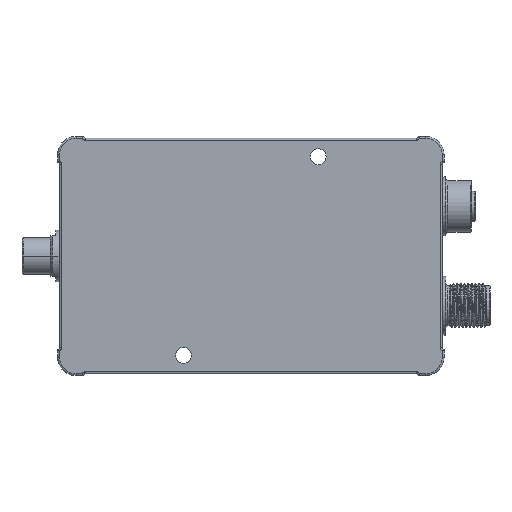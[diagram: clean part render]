
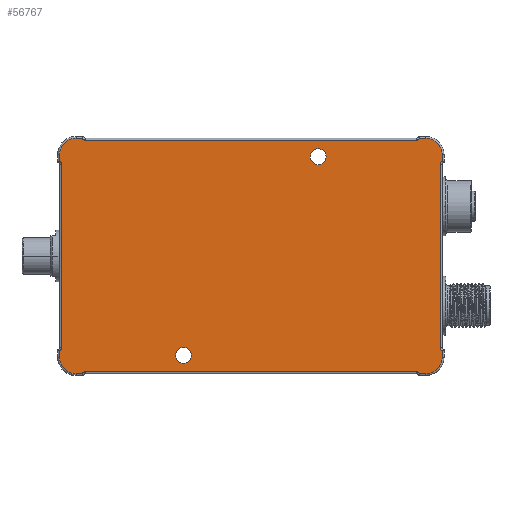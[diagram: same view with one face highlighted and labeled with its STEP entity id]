
A CAD part, front view. The second image highlights one B-rep face of the part: STEP entity #56767.
In plain terms, the highlighted planar face has unit normal (0, -1, 0).
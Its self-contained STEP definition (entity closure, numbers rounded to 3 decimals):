
#60=DIRECTION('',(0.,0.,1.));
#61=VECTOR('',#60,1.634);
#62=CARTESIAN_POINT('',(52.,0.,25.866));
#63=LINE('',#62,#61);
#68=CARTESIAN_POINT('',(52.5,0.,25.));
#69=DIRECTION('',(0.,-1.,0.));
#70=DIRECTION('',(-0.5,0.,0.866));
#71=AXIS2_PLACEMENT_3D('',#68,#69,#70);
#76=DIRECTION('',(0.,0.,-1.));
#77=VECTOR('',#76,50.);
#78=CARTESIAN_POINT('',(51.5,0.,25.));
#79=LINE('',#78,#77);
#83=CARTESIAN_POINT('',(52.5,0.,-25.));
#84=DIRECTION('',(0.,-1.,0.));
#85=DIRECTION('',(-1.,0.,0.));
#86=AXIS2_PLACEMENT_3D('',#83,#84,#85);
#91=DIRECTION('',(0.,0.,1.));
#92=VECTOR('',#91,1.634);
#93=CARTESIAN_POINT('',(52.,0.,-27.5));
#94=LINE('',#93,#92);
#98=CARTESIAN_POINT('',(47.5,0.,-27.5));
#99=DIRECTION('',(0.,-1.,0.));
#100=DIRECTION('',(0.,0.,-1.));
#101=AXIS2_PLACEMENT_3D('',#98,#99,#100);
#106=DIRECTION('',(1.,0.,0.));
#107=VECTOR('',#106,1.634);
#108=CARTESIAN_POINT('',(45.866,0.,-32.));
#109=LINE('',#108,#107);
#113=CARTESIAN_POINT('',(45.,0.,-32.5));
#114=DIRECTION('',(0.,-1.,0.));
#115=DIRECTION('',(0.866,0.,0.5));
#116=AXIS2_PLACEMENT_3D('',#113,#114,#115);
#121=DIRECTION('',(-1.,0.,0.));
#122=VECTOR('',#121,90.);
#123=CARTESIAN_POINT('',(45.,0.,-31.5));
#124=LINE('',#123,#122);
#128=CARTESIAN_POINT('',(-45.,0.,-32.5));
#129=DIRECTION('',(0.,-1.,0.));
#130=DIRECTION('',(0.,0.,1.));
#131=AXIS2_PLACEMENT_3D('',#128,#129,#130);
#136=DIRECTION('',(1.,0.,0.));
#137=VECTOR('',#136,1.634);
#138=CARTESIAN_POINT('',(-47.5,0.,-32.));
#139=LINE('',#138,#137);
#143=CARTESIAN_POINT('',(-47.5,0.,-27.5));
#144=DIRECTION('',(0.,-1.,0.));
#145=DIRECTION('',(-1.,0.,0.));
#146=AXIS2_PLACEMENT_3D('',#143,#144,#145);
#151=DIRECTION('',(0.,0.,-1.));
#152=VECTOR('',#151,1.634);
#153=CARTESIAN_POINT('',(-52.,0.,-25.866));
#154=LINE('',#153,#152);
#158=CARTESIAN_POINT('',(-52.5,0.,-25.));
#159=DIRECTION('',(0.,-1.,0.));
#160=DIRECTION('',(0.5,0.,-0.866));
#161=AXIS2_PLACEMENT_3D('',#158,#159,#160);
#166=DIRECTION('',(0.,0.,1.));
#167=VECTOR('',#166,50.);
#168=CARTESIAN_POINT('',(-51.5,0.,-25.));
#169=LINE('',#168,#167);
#173=CARTESIAN_POINT('',(-52.5,0.,25.));
#174=DIRECTION('',(0.,-1.,0.));
#175=DIRECTION('',(1.,0.,0.));
#176=AXIS2_PLACEMENT_3D('',#173,#174,#175);
#181=DIRECTION('',(0.,0.,-1.));
#182=VECTOR('',#181,1.634);
#183=CARTESIAN_POINT('',(-52.,0.,27.5));
#184=LINE('',#183,#182);
#188=CARTESIAN_POINT('',(-47.5,0.,27.5));
#189=DIRECTION('',(0.,-1.,0.));
#190=DIRECTION('',(0.,0.,1.));
#191=AXIS2_PLACEMENT_3D('',#188,#189,#190);
#196=DIRECTION('',(-1.,0.,0.));
#197=VECTOR('',#196,1.634);
#198=CARTESIAN_POINT('',(-45.866,0.,32.));
#199=LINE('',#198,#197);
#203=CARTESIAN_POINT('',(-45.,0.,32.5));
#204=DIRECTION('',(0.,-1.,0.));
#205=DIRECTION('',(-0.866,0.,-0.5));
#206=AXIS2_PLACEMENT_3D('',#203,#204,#205);
#211=DIRECTION('',(1.,0.,0.));
#212=VECTOR('',#211,90.);
#213=CARTESIAN_POINT('',(-45.,0.,31.5));
#214=LINE('',#213,#212);
#218=CARTESIAN_POINT('',(45.,0.,32.5));
#219=DIRECTION('',(0.,-1.,0.));
#220=DIRECTION('',(0.,0.,-1.));
#221=AXIS2_PLACEMENT_3D('',#218,#219,#220);
#226=DIRECTION('',(-1.,0.,0.));
#227=VECTOR('',#226,1.634);
#228=CARTESIAN_POINT('',(47.5,0.,32.));
#229=LINE('',#228,#227);
#233=CARTESIAN_POINT('',(47.5,0.,27.5));
#234=DIRECTION('',(0.,-1.,0.));
#235=DIRECTION('',(1.,0.,0.));
#236=AXIS2_PLACEMENT_3D('',#233,#234,#235);
#241=CARTESIAN_POINT('',(-18.3,0.,-27.));
#242=DIRECTION('',(0.,1.,0.));
#243=DIRECTION('',(1.,0.,0.));
#244=AXIS2_PLACEMENT_3D('',#241,#242,#243);
#249=CARTESIAN_POINT('',(-18.3,0.,-27.));
#250=DIRECTION('',(0.,1.,0.));
#251=DIRECTION('',(-1.,0.,0.));
#252=AXIS2_PLACEMENT_3D('',#249,#250,#251);
#257=CARTESIAN_POINT('',(18.3,0.,27.));
#258=DIRECTION('',(0.,1.,0.));
#259=DIRECTION('',(-1.,0.,0.));
#260=AXIS2_PLACEMENT_3D('',#257,#258,#259);
#265=CARTESIAN_POINT('',(18.3,0.,27.));
#266=DIRECTION('',(0.,1.,0.));
#267=DIRECTION('',(1.,0.,0.));
#268=AXIS2_PLACEMENT_3D('',#265,#266,#267);
#50909=CARTESIAN_POINT('',(-16.15,0.,-27.));
#50910=CARTESIAN_POINT('',(-20.45,0.,-27.));
#50911=VERTEX_POINT('',#50909);
#50912=VERTEX_POINT('',#50910);
#50917=CARTESIAN_POINT('',(16.15,0.,27.));
#50918=CARTESIAN_POINT('',(20.45,0.,27.));
#50919=VERTEX_POINT('',#50917);
#50920=VERTEX_POINT('',#50918);
#50945=CARTESIAN_POINT('',(52.,0.,25.866));
#50946=CARTESIAN_POINT('',(52.,0.,27.5));
#50947=VERTEX_POINT('',#50945);
#50948=VERTEX_POINT('',#50946);
#50953=CARTESIAN_POINT('',(47.5,0.,32.));
#50954=VERTEX_POINT('',#50953);
#50959=CARTESIAN_POINT('',(45.866,0.,32.));
#50960=VERTEX_POINT('',#50959);
#50965=CARTESIAN_POINT('',(51.5,0.,25.));
#50966=CARTESIAN_POINT('',(51.5,0.,-25.));
#50967=VERTEX_POINT('',#50965);
#50968=VERTEX_POINT('',#50966);
#50969=CARTESIAN_POINT('',(45.866,0.,-32.));
#50970=CARTESIAN_POINT('',(47.5,0.,-32.));
#50971=VERTEX_POINT('',#50969);
#50972=VERTEX_POINT('',#50970);
#50977=CARTESIAN_POINT('',(52.,0.,-27.5));
#50978=VERTEX_POINT('',#50977);
#50983=CARTESIAN_POINT('',(52.,0.,-25.866));
#50984=VERTEX_POINT('',#50983);
#50989=CARTESIAN_POINT('',(45.,0.,-31.5));
#50990=CARTESIAN_POINT('',(-45.,0.,-31.5));
#50991=VERTEX_POINT('',#50989);
#50992=VERTEX_POINT('',#50990);
#50993=CARTESIAN_POINT('',(-52.,0.,-25.866));
#50994=CARTESIAN_POINT('',(-52.,0.,-27.5));
#50995=VERTEX_POINT('',#50993);
#50996=VERTEX_POINT('',#50994);
#51001=CARTESIAN_POINT('',(-47.5,0.,-32.));
#51002=VERTEX_POINT('',#51001);
#51007=CARTESIAN_POINT('',(-45.866,0.,-32.));
#51008=VERTEX_POINT('',#51007);
#51013=CARTESIAN_POINT('',(-51.5,0.,-25.));
#51014=CARTESIAN_POINT('',(-51.5,0.,25.));
#51015=VERTEX_POINT('',#51013);
#51016=VERTEX_POINT('',#51014);
#51021=CARTESIAN_POINT('',(-52.,0.,27.5));
#51022=CARTESIAN_POINT('',(-52.,0.,25.866));
#51023=VERTEX_POINT('',#51021);
#51024=VERTEX_POINT('',#51022);
#51025=CARTESIAN_POINT('',(-47.5,0.,32.));
#51026=VERTEX_POINT('',#51025);
#51029=CARTESIAN_POINT('',(-45.866,0.,32.));
#51030=VERTEX_POINT('',#51029);
#51037=CARTESIAN_POINT('',(-45.,0.,31.5));
#51038=CARTESIAN_POINT('',(45.,0.,31.5));
#51039=VERTEX_POINT('',#51037);
#51040=VERTEX_POINT('',#51038);
#56700=CARTESIAN_POINT('',(0.,0.,0.));
#56701=DIRECTION('',(0.,1.,0.));
#56702=DIRECTION('',(1.,0.,0.));
#56703=AXIS2_PLACEMENT_3D('',#56700,#56701,#56702);
#56704=PLANE('',#56703);
#56706=ORIENTED_EDGE('',*,*,#56705,.F.);
#56708=ORIENTED_EDGE('',*,*,#56707,.T.);
#56710=ORIENTED_EDGE('',*,*,#56709,.T.);
#56712=ORIENTED_EDGE('',*,*,#56711,.T.);
#56714=ORIENTED_EDGE('',*,*,#56713,.F.);
#56716=ORIENTED_EDGE('',*,*,#56715,.F.);
#56718=ORIENTED_EDGE('',*,*,#56717,.F.);
#56720=ORIENTED_EDGE('',*,*,#56719,.T.);
#56722=ORIENTED_EDGE('',*,*,#56721,.T.);
#56724=ORIENTED_EDGE('',*,*,#56723,.T.);
#56726=ORIENTED_EDGE('',*,*,#56725,.F.);
#56728=ORIENTED_EDGE('',*,*,#56727,.F.);
#56730=ORIENTED_EDGE('',*,*,#56729,.F.);
#56732=ORIENTED_EDGE('',*,*,#56731,.T.);
#56734=ORIENTED_EDGE('',*,*,#56733,.T.);
#56736=ORIENTED_EDGE('',*,*,#56735,.T.);
#56738=ORIENTED_EDGE('',*,*,#56737,.F.);
#56740=ORIENTED_EDGE('',*,*,#56739,.F.);
#56742=ORIENTED_EDGE('',*,*,#56741,.F.);
#56744=ORIENTED_EDGE('',*,*,#56743,.T.);
#56746=ORIENTED_EDGE('',*,*,#56745,.T.);
#56748=ORIENTED_EDGE('',*,*,#56747,.T.);
#56750=ORIENTED_EDGE('',*,*,#56749,.F.);
#56752=ORIENTED_EDGE('',*,*,#56751,.F.);
#56753=EDGE_LOOP('',(#56706,#56708,#56710,#56712,#56714,#56716,#56718,#56720,
#56722,#56724,#56726,#56728,#56730,#56732,#56734,#56736,#56738,#56740,#56742,
#56744,#56746,#56748,#56750,#56752));
#56754=FACE_OUTER_BOUND('',#56753,.F.);
#56756=ORIENTED_EDGE('',*,*,#56755,.F.);
#56758=ORIENTED_EDGE('',*,*,#56757,.F.);
#56759=EDGE_LOOP('',(#56756,#56758));
#56760=FACE_BOUND('',#56759,.F.);
#56762=ORIENTED_EDGE('',*,*,#56761,.F.);
#56764=ORIENTED_EDGE('',*,*,#56763,.F.);
#56765=EDGE_LOOP('',(#56762,#56764));
#56766=FACE_BOUND('',#56765,.F.);
#72=CIRCLE('',#71,1.);
#87=CIRCLE('',#86,1.);
#102=CIRCLE('',#101,4.5);
#117=CIRCLE('',#116,1.);
#132=CIRCLE('',#131,1.);
#147=CIRCLE('',#146,4.5);
#162=CIRCLE('',#161,1.);
#177=CIRCLE('',#176,1.);
#192=CIRCLE('',#191,4.5);
#207=CIRCLE('',#206,1.);
#222=CIRCLE('',#221,1.);
#237=CIRCLE('',#236,4.5);
#245=CIRCLE('',#244,2.15);
#253=CIRCLE('',#252,2.15);
#261=CIRCLE('',#260,2.15);
#269=CIRCLE('',#268,2.15);
#56705=EDGE_CURVE('',#50947,#50948,#63,.T.);
#56707=EDGE_CURVE('',#50947,#50967,#72,.T.);
#56709=EDGE_CURVE('',#50967,#50968,#79,.T.);
#56711=EDGE_CURVE('',#50968,#50984,#87,.T.);
#56713=EDGE_CURVE('',#50978,#50984,#94,.T.);
#56715=EDGE_CURVE('',#50972,#50978,#102,.T.);
#56717=EDGE_CURVE('',#50971,#50972,#109,.T.);
#56719=EDGE_CURVE('',#50971,#50991,#117,.T.);
#56721=EDGE_CURVE('',#50991,#50992,#124,.T.);
#56723=EDGE_CURVE('',#50992,#51008,#132,.T.);
#56725=EDGE_CURVE('',#51002,#51008,#139,.T.);
#56727=EDGE_CURVE('',#50996,#51002,#147,.T.);
#56729=EDGE_CURVE('',#50995,#50996,#154,.T.);
#56731=EDGE_CURVE('',#50995,#51015,#162,.T.);
#56733=EDGE_CURVE('',#51015,#51016,#169,.T.);
#56735=EDGE_CURVE('',#51016,#51024,#177,.T.);
#56737=EDGE_CURVE('',#51023,#51024,#184,.T.);
#56739=EDGE_CURVE('',#51026,#51023,#192,.T.);
#56741=EDGE_CURVE('',#51030,#51026,#199,.T.);
#56743=EDGE_CURVE('',#51030,#51039,#207,.T.);
#56745=EDGE_CURVE('',#51039,#51040,#214,.T.);
#56747=EDGE_CURVE('',#51040,#50960,#222,.T.);
#56749=EDGE_CURVE('',#50954,#50960,#229,.T.);
#56751=EDGE_CURVE('',#50948,#50954,#237,.T.);
#56755=EDGE_CURVE('',#50911,#50912,#245,.T.);
#56757=EDGE_CURVE('',#50912,#50911,#253,.T.);
#56761=EDGE_CURVE('',#50919,#50920,#261,.T.);
#56763=EDGE_CURVE('',#50920,#50919,#269,.T.);
#56767=ADVANCED_FACE('',(#56754,#56760,#56766),#56704,.F.);
